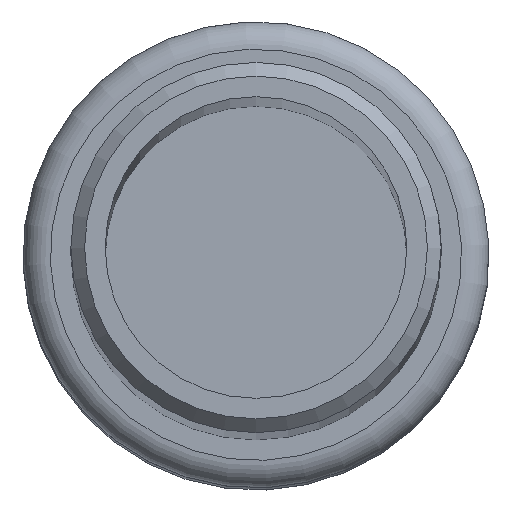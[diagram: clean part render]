
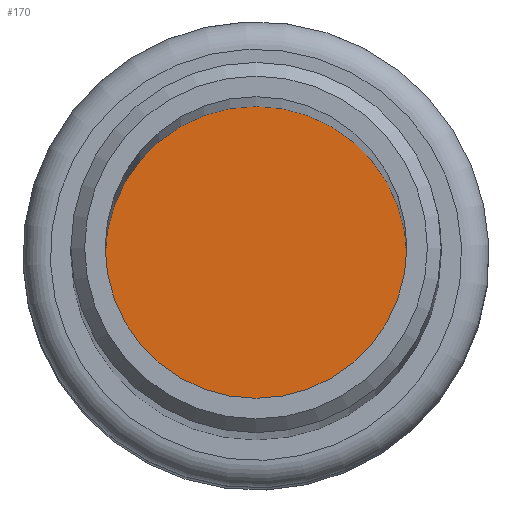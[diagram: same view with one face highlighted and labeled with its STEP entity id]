
A CAD part, top view. The second image highlights one B-rep face of the part: STEP entity #170.
In plain terms, the highlighted planar face has unit normal (0, 0, 1).
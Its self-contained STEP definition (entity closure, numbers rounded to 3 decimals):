
#33=ORIENTED_EDGE('',*,*,#63,.T.);
#63=EDGE_CURVE('',#78,#78,#93,.T.);
#78=VERTEX_POINT('',#287);
#93=CIRCLE('',#199,11.);
#106=EDGE_LOOP('',(#33));
#136=FACE_BOUND('',#106,.T.);
#166=PLANE('',#198);
#170=ADVANCED_FACE('',(#136),#166,.F.);
#198=AXIS2_PLACEMENT_3D('',#285,#228,#229);
#199=AXIS2_PLACEMENT_3D('',#286,#230,#231);
#228=DIRECTION('',(0.,0.,-1.));
#229=DIRECTION('',(-0.924,-0.383,0.));
#230=DIRECTION('',(0.,0.,1.));
#231=DIRECTION('',(1.,0.,0.));
#285=CARTESIAN_POINT('',(0.,0.,-400.));
#286=CARTESIAN_POINT('',(0.,0.,-400.));
#287=CARTESIAN_POINT('',(11.,0.,-400.));
